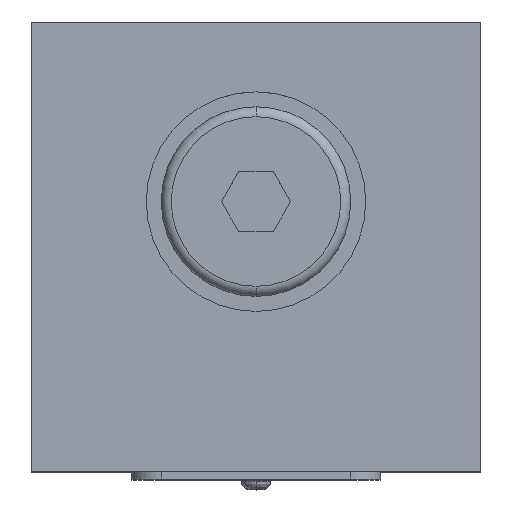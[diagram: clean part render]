
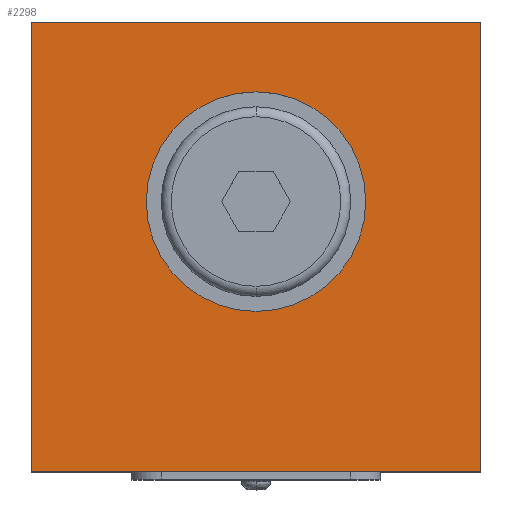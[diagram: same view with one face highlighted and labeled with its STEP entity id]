
A CAD part, top view. The second image highlights one B-rep face of the part: STEP entity #2298.
In plain terms, the highlighted planar face has unit normal (0, 0, 1).
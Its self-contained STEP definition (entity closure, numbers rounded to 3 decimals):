
#183=DIRECTION('',(-1.,0.,0.));
#184=VECTOR('',#183,45.);
#185=CARTESIAN_POINT('',(22.5,-22.5,68.));
#186=LINE('',#185,#184);
#187=DIRECTION('',(0.,1.,0.));
#188=VECTOR('',#187,45.);
#189=CARTESIAN_POINT('',(-22.5,-22.5,68.));
#190=LINE('',#189,#188);
#191=DIRECTION('',(1.,0.,0.));
#192=VECTOR('',#191,45.);
#193=CARTESIAN_POINT('',(-22.5,22.5,68.));
#194=LINE('',#193,#192);
#195=DIRECTION('',(0.,-1.,0.));
#196=VECTOR('',#195,45.);
#197=CARTESIAN_POINT('',(22.5,22.5,68.));
#198=LINE('',#197,#196);
#199=CARTESIAN_POINT('',(0.,4.5,68.));
#200=DIRECTION('',(0.,0.,1.));
#201=DIRECTION('',(-1.,0.,0.));
#202=AXIS2_PLACEMENT_3D('',#199,#200,#201);
#204=CARTESIAN_POINT('',(0.,4.5,68.));
#205=DIRECTION('',(0.,0.,1.));
#206=DIRECTION('',(1.,0.,0.));
#207=AXIS2_PLACEMENT_3D('',#204,#205,#206);
#1801=CARTESIAN_POINT('',(22.5,-22.5,68.));
#1802=CARTESIAN_POINT('',(-22.5,-22.5,68.));
#1803=VERTEX_POINT('',#1801);
#1804=VERTEX_POINT('',#1802);
#1805=CARTESIAN_POINT('',(-22.5,22.5,68.));
#1806=VERTEX_POINT('',#1805);
#1807=CARTESIAN_POINT('',(22.5,22.5,68.));
#1808=VERTEX_POINT('',#1807);
#1809=CARTESIAN_POINT('',(-11.,4.5,68.));
#1810=CARTESIAN_POINT('',(11.,4.5,68.));
#1811=VERTEX_POINT('',#1809);
#1812=VERTEX_POINT('',#1810);
#2281=CARTESIAN_POINT('',(0.,0.,68.));
#2282=DIRECTION('',(0.,0.,1.));
#2283=DIRECTION('',(1.,0.,0.));
#2284=AXIS2_PLACEMENT_3D('',#2281,#2282,#2283);
#2285=PLANE('',#2284);
#2286=ORIENTED_EDGE('',*,*,#2143,.T.);
#2287=ORIENTED_EDGE('',*,*,#2176,.T.);
#2288=ORIENTED_EDGE('',*,*,#2214,.T.);
#2289=ORIENTED_EDGE('',*,*,#2227,.T.);
#2290=EDGE_LOOP('',(#2286,#2287,#2288,#2289));
#2291=FACE_OUTER_BOUND('',#2290,.F.);
#2293=ORIENTED_EDGE('',*,*,#2292,.T.);
#2295=ORIENTED_EDGE('',*,*,#2294,.T.);
#2296=EDGE_LOOP('',(#2293,#2295));
#2297=FACE_BOUND('',#2296,.F.);
#203=CIRCLE('',#202,11.);
#208=CIRCLE('',#207,11.);
#2143=EDGE_CURVE('',#1803,#1804,#186,.T.);
#2176=EDGE_CURVE('',#1804,#1806,#190,.T.);
#2214=EDGE_CURVE('',#1806,#1808,#194,.T.);
#2227=EDGE_CURVE('',#1808,#1803,#198,.T.);
#2292=EDGE_CURVE('',#1811,#1812,#203,.T.);
#2294=EDGE_CURVE('',#1812,#1811,#208,.T.);
#2298=ADVANCED_FACE('',(#2291,#2297),#2285,.T.);
